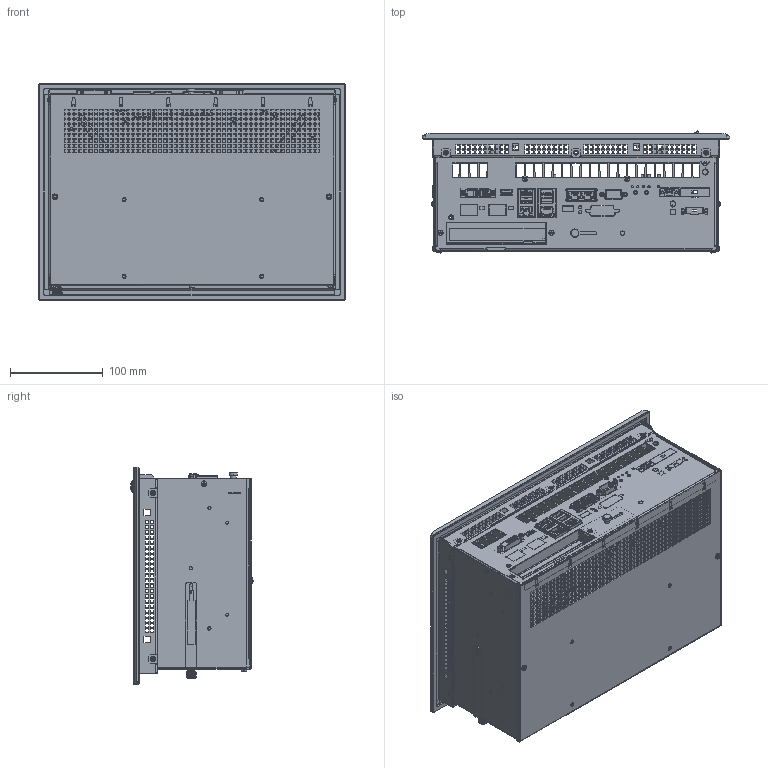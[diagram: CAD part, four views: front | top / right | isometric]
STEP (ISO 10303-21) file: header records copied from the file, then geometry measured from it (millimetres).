
FILE_DESCRIPTION((''),'2;1');
FILE_NAME('C6P34-Panel_121W_RES_S1_ASM','2019-01-31T',('rafrev'),(''),'PRO/ENGINEER BY PARAMETRIC TECHNOLOGY CORPORATION, 2013410','PRO/ENGINEER BY PARAMETRIC TECHNOLOGY CORPORATION, 2013410','');
FILE_SCHEMA(('AUTOMOTIVE_DESIGN { 1 0 10303 214 1 1 1 1 }'));
Products named in the file (1): C6P34-Panel_121W_RES_S1_ASM
Bounding box: 331 x 131.41 x 234 mm (x, y, z)
Surface area: 1005039.1 mm2 (no closed solid volume)
Topology: 0 solids, 440 shells, 6049 faces, 26913 edges, 21086 vertices
Faces by surface type: plane 5206, cylinder 596, cone 194, torus 31, bspline 15, sphere 4, extrusion 3
Entity records: 317828 total; most frequent: CARTESIAN_POINT 64927, ORIENTED_EDGE 41716, DIRECTION 40530, EDGE_CURVE 26899, VECTOR 22768, LINE 22765, VERTEX_POINT 21086, EDGE_LOOP 9425
